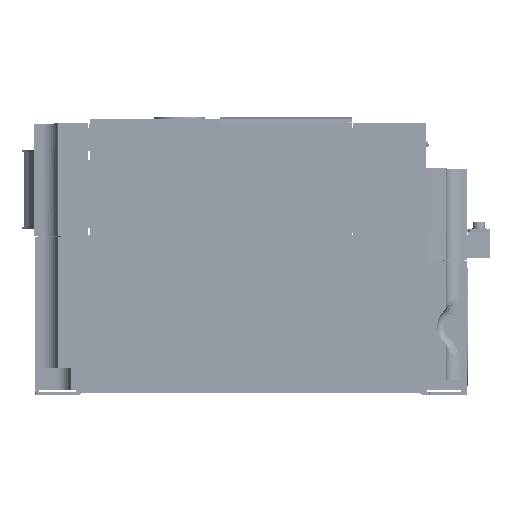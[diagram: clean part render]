
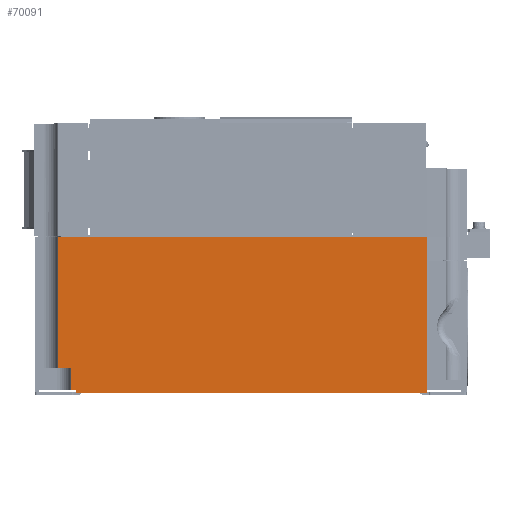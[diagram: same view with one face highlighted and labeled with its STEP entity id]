
A CAD part, left-side view. The second image highlights one B-rep face of the part: STEP entity #70091.
In plain terms, the highlighted planar face has unit normal (-1, 0, 0).
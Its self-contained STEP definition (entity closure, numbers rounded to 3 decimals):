
#9547=DIRECTION('',(0.,-1.,0.));
#9548=VECTOR('',#9547,252.);
#9549=CARTESIAN_POINT('',(-9.,239.,102.3));
#9550=LINE('',#9549,#9548);
#17532=DIRECTION('',(0.,0.,1.));
#17533=VECTOR('',#17532,91.1);
#17534=CARTESIAN_POINT('',(-9.,-13.,-4.));
#17535=LINE('',#17534,#17533);
#17536=DIRECTION('',(0.,1.,0.));
#17537=VECTOR('',#17536,240.);
#17538=CARTESIAN_POINT('',(-9.,-13.,-4.));
#17539=LINE('',#17538,#17537);
#17540=DIRECTION('',(0.,1.,0.));
#17541=VECTOR('',#17540,3.314);
#17542=CARTESIAN_POINT('',(-9.,227.,-2.));
#17543=LINE('',#17542,#17541);
#17544=DIRECTION('',(0.,0.,-1.));
#17545=VECTOR('',#17544,15.2);
#17546=CARTESIAN_POINT('',(-9.,-13.,102.3));
#17547=LINE('',#17546,#17545);
#17670=DIRECTION('',(0.,0.,1.));
#17671=VECTOR('',#17670,2.);
#17672=CARTESIAN_POINT('',(-9.,227.,-4.));
#17673=LINE('',#17672,#17671);
#17729=DIRECTION('',(0.,-1.,0.));
#17730=VECTOR('',#17729,8.686);
#17731=CARTESIAN_POINT('',(-9.,239.,13.));
#17732=LINE('',#17731,#17730);
#17746=DIRECTION('',(0.,0.,-1.));
#17747=VECTOR('',#17746,89.3);
#17748=CARTESIAN_POINT('',(-9.,239.,102.3));
#17749=LINE('',#17748,#17747);
#17750=DIRECTION('',(0.,0.,1.));
#17751=VECTOR('',#17750,15.);
#17752=CARTESIAN_POINT('',(-9.,230.314,-2.));
#17753=LINE('',#17752,#17751);
#34792=CARTESIAN_POINT('',(-9.,-13.,-4.));
#34794=VERTEX_POINT('',#34792);
#34796=CARTESIAN_POINT('',(-9.,227.,-4.));
#34797=VERTEX_POINT('',#34796);
#34908=CARTESIAN_POINT('',(-9.,227.,-2.));
#34909=VERTEX_POINT('',#34908);
#34910=CARTESIAN_POINT('',(-9.,230.314,-2.));
#34911=VERTEX_POINT('',#34910);
#34936=CARTESIAN_POINT('',(-9.,-13.,87.1));
#34937=VERTEX_POINT('',#34936);
#35010=CARTESIAN_POINT('',(-9.,-13.,102.3));
#35011=VERTEX_POINT('',#35010);
#35012=CARTESIAN_POINT('',(-9.,230.314,13.));
#35013=VERTEX_POINT('',#35012);
#35014=CARTESIAN_POINT('',(-9.,239.,13.));
#35015=VERTEX_POINT('',#35014);
#35016=CARTESIAN_POINT('',(-9.,239.,102.3));
#35017=VERTEX_POINT('',#35016);
#70068=CARTESIAN_POINT('',(-9.,113.,49.15));
#70069=DIRECTION('',(1.,0.,0.));
#70070=DIRECTION('',(0.,-1.,0.));
#70071=AXIS2_PLACEMENT_3D('',#70068,#70069,#70070);
#70072=PLANE('',#70071);
#70074=ORIENTED_EDGE('',*,*,#70073,.F.);
#70076=ORIENTED_EDGE('',*,*,#70075,.T.);
#70078=ORIENTED_EDGE('',*,*,#70077,.T.);
#70080=ORIENTED_EDGE('',*,*,#70079,.T.);
#70082=ORIENTED_EDGE('',*,*,#70081,.T.);
#70084=ORIENTED_EDGE('',*,*,#70083,.F.);
#70086=ORIENTED_EDGE('',*,*,#70085,.F.);
#70087=ORIENTED_EDGE('',*,*,#58354,.T.);
#70088=ORIENTED_EDGE('',*,*,#70061,.T.);
#70089=EDGE_LOOP('',(#70074,#70076,#70078,#70080,#70082,#70084,#70086,#70087,
#70088));
#70090=FACE_OUTER_BOUND('',#70089,.F.);
#70091=ADVANCED_FACE('',(#70090),#70072,.F.);
#58354=EDGE_CURVE('',#35017,#35011,#9550,.T.);
#70061=EDGE_CURVE('',#35011,#34937,#17547,.T.);
#70073=EDGE_CURVE('',#34794,#34937,#17535,.T.);
#70075=EDGE_CURVE('',#34794,#34797,#17539,.T.);
#70077=EDGE_CURVE('',#34797,#34909,#17673,.T.);
#70079=EDGE_CURVE('',#34909,#34911,#17543,.T.);
#70081=EDGE_CURVE('',#34911,#35013,#17753,.T.);
#70083=EDGE_CURVE('',#35015,#35013,#17732,.T.);
#70085=EDGE_CURVE('',#35017,#35015,#17749,.T.);
